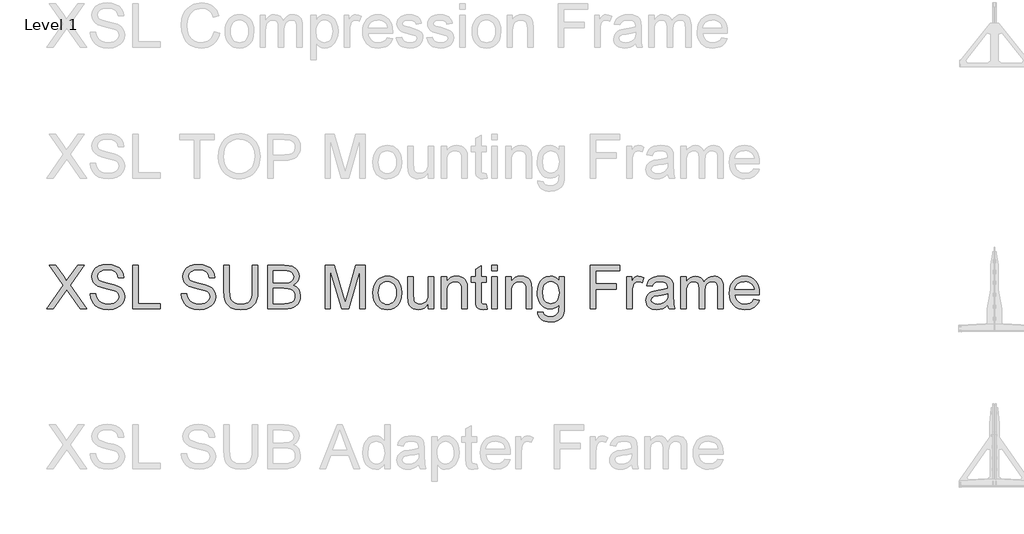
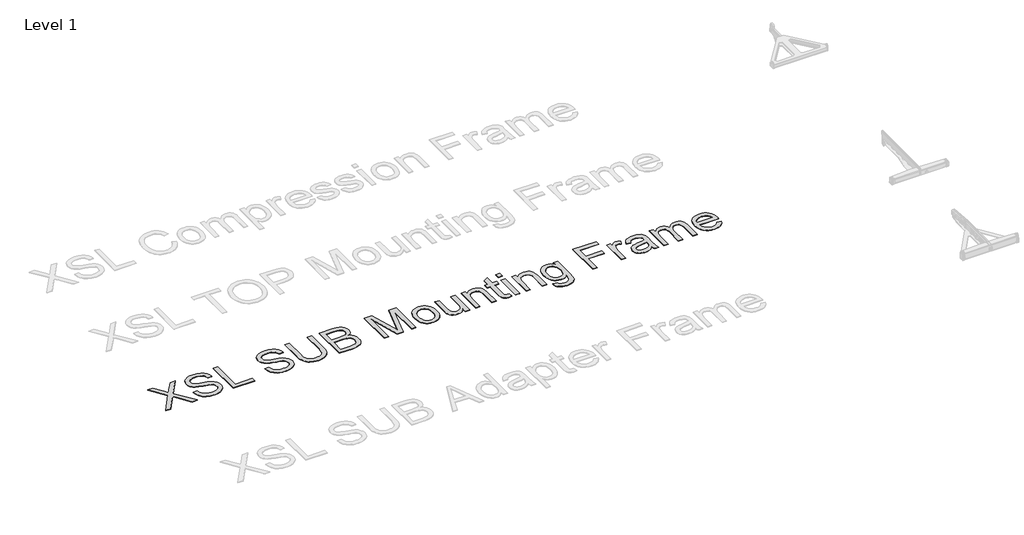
# One storey, part 7 of 52: 1 proxy.
"""IFC4 building model written with IfcOpenShell, lengths in millimetres."""

import ifcopenshell
import ifcopenshell.guid

model = None  # the IFC model being written
_history = None  # IfcOwnerHistory: only IFC2X3 demands one
_inside = {}  # id of a spatial element -> (the spatial element, [elements in it])
_under = {}  # id of a project, library or spatial element -> (it, [spatial elements below it])
_declared = {}  # id of a project -> (the project, [libraries it declares])
_typed = {}  # id of a type object -> (the type object, [elements of that type])
_made_of = {}  # id of a material, layer set ... -> (it, [elements and type objects made of it])


def new_model(schema):
    """Start an empty IFC model of exactly this schema.

    Asked for "IFC4X3", IfcOpenShell would pick the latest addendum, in which some entities
    have other attributes; the version numbers below select the first issue.
    IFC2X3 requires an IfcOwnerHistory on every rooted entity: one is made here for all.
    """
    global model, _history
    if schema == "IFC4X3":
        model = ifcopenshell.file(schema_version=(4, 3, 0, 0))
    else:
        model = ifcopenshell.file(schema=schema)
    _inside.clear()
    _under.clear()
    _declared.clear()
    _typed.clear()
    _made_of.clear()
    _history = None
    if model.schema == "IFC2X3":
        org = make("IfcOrganization", Name="unknown")
        user = make(
            "IfcPersonAndOrganization",
            ThePerson=make("IfcPerson", FamilyName="unknown"),
            TheOrganization=org,
        )
        app = make(
            "IfcApplication",
            ApplicationDeveloper=org,
            Version="unknown",
            ApplicationFullName="unknown",
            ApplicationIdentifier="unknown",
        )
        _history = make(
            "IfcOwnerHistory",
            OwningUser=user,
            OwningApplication=app,
            ChangeAction="ADDED",
            CreationDate=0,
        )
    return model


def make(cls, **values):
    """One entity of the class cls with the attributes given. An attribute that is None is left unset."""
    return model.create_entity(
        cls, **{name: value for name, value in values.items() if value is not None}
    )


def rooted(cls, **values):
    """An entity with a GlobalId (a new one), such as an element, a storey or a relation."""
    return make(cls, GlobalId=ifcopenshell.guid.new(), OwnerHistory=_history, **values)


def si_unit(unit_type, name, prefix=None):
    """IfcSIUnit, for example si_unit("LENGTHUNIT", "METRE", prefix="MILLI")."""
    return make("IfcSIUnit", UnitType=unit_type, Prefix=prefix, Name=name)


def assignment(units):
    """IfcUnitAssignment: the units of a project."""
    return None if units is None else make("IfcUnitAssignment", Units=units)


def point(xyz):
    """IfcCartesianPoint."""
    return None if xyz is None else make("IfcCartesianPoint", Coordinates=xyz)


def direction(xyz):
    """IfcDirection."""
    return None if xyz is None else make("IfcDirection", DirectionRatios=xyz)


def frame(location, z_axis=None, x_axis=None):
    """IfcAxis2Placement3D, a coordinate frame: its origin and axes. An axis left out is left unset."""
    return make(
        "IfcAxis2Placement3D",
        Location=point(location),
        Axis=direction(z_axis),
        RefDirection=direction(x_axis),
    )


def origin():
    """The frame at (0, 0, 0) with its axes left unset."""
    return frame((0.0, 0.0, 0.0))


def origin_with_axes():
    """The frame at (0, 0, 0) with the z axis (0, 0, 1) and the x axis (1, 0, 0) written out."""
    return frame((0.0, 0.0, 0.0), z_axis=(0.0, 0.0, 1.0), x_axis=(1.0, 0.0, 0.0))


def place(relative_to, where):
    """IfcLocalPlacement: puts the frame where relative to a parent placement (None: the world)."""
    return make(
        "IfcLocalPlacement", PlacementRelTo=relative_to, RelativePlacement=where
    )


def context(
    kind, dimensions, precision=None, world=None, true_north=None, identifier=None
):
    """IfcGeometricRepresentationContext, for example the 3D "Model" context."""
    return make(
        "IfcGeometricRepresentationContext",
        ContextIdentifier=identifier,
        ContextType=kind,
        CoordinateSpaceDimension=dimensions,
        Precision=precision,
        WorldCoordinateSystem=world,
        TrueNorth=true_north,
    )


def project(units=None, contexts=None):
    """IfcProject with its units and contexts."""
    return rooted(
        "IfcProject",
        Name="project",
        RepresentationContexts=contexts,
        UnitsInContext=assignment(units),
    )


def spatial(cls, under=None, at=None, **own):
    """A site, building, storey or space (cls), placed at a placement, below another one or the project."""
    s = rooted(cls, ObjectPlacement=at, **own)
    if under is not None:
        _under.setdefault(under.id(), (under, []))[1].append(s)
    return s


def polyline(points):
    """IfcPolyline through the points."""
    return make("IfcPolyline", Points=[point(p) for p in points])


def outline(outer, holes=None, kind="AREA"):
    """IfcArbitraryClosedProfileDef: a profile drawn as a closed curve; with holes, ...WithVoids."""
    if holes is None:
        return make("IfcArbitraryClosedProfileDef", ProfileType=kind, OuterCurve=outer)
    return make(
        "IfcArbitraryProfileDefWithVoids",
        ProfileType=kind,
        OuterCurve=outer,
        InnerCurves=holes,
    )


def extrude(swept, where, along, depth):
    """IfcExtrudedAreaSolid: the profile swept, set in the frame where, extruded along a direction by depth."""
    return make(
        "IfcExtrudedAreaSolid",
        SweptArea=swept,
        Position=where,
        ExtrudedDirection=direction(along),
        Depth=depth,
    )


def shape(context_of_items, identifier, shape_type, items):
    """IfcShapeRepresentation: the items that make up one representation, for example the "Body"."""
    return make(
        "IfcShapeRepresentation",
        ContextOfItems=context_of_items,
        RepresentationIdentifier=identifier,
        RepresentationType=shape_type,
        Items=items,
    )


def made_of(thing, what):
    """Note that an element or type object is made of a material, layer set ...; save() writes the relation."""
    if what is not None:
        _made_of.setdefault(what.id(), (what, []))[1].append(thing)
    return thing


def element(
    cls,
    number,
    at=None,
    inside=None,
    cuts=None,
    type_object=None,
    material=None,
    context=None,
    identifier="Body",
    shape_type=None,
    held_by="IfcProductDefinitionShape",
    body=None,
    shapes=None,
    **own,
):
    """One element of the class cls, such as IfcWall. Its Tag is "e" and its number.

    at: its placement. inside: the storey or other place that contains it. cuts: it is an
    opening in that element (IfcRelVoidsElement). A single representation is given by context,
    identifier, shape_type and body (its items); several are given by shapes. held_by: the class
    of the entity that holds the representations. save() writes the other relations.
    """
    e = rooted(cls, Tag="e%d" % number, ObjectPlacement=at, **own)
    if body is not None:
        shapes = [shape(context, identifier, shape_type, body)]
    if shapes is not None:
        e.Representation = make(held_by, Representations=shapes)
    if inside is not None:
        _inside.setdefault(inside.id(), (inside, []))[1].append(e)
    if cuts is not None:
        rooted(
            "IfcRelVoidsElement", RelatingBuildingElement=cuts, RelatedOpeningElement=e
        )
    if type_object is not None:
        _typed.setdefault(type_object.id(), (type_object, []))[1].append(e)
    return made_of(e, material)


def aggregate(whole, parts):
    """IfcRelAggregates: a whole, such as a stair, and the parts it consists of."""
    return rooted("IfcRelAggregates", RelatingObject=whole, RelatedObjects=parts)


def save(model, path):
    """Write the relations noted so far, then the file.

    IfcRelAggregates (storeys below a building ...), IfcRelContainedInSpatialStructure (elements
    in a storey), IfcRelDefinesByType, IfcRelAssociatesMaterial and IfcRelDeclares: one each for
    every whole, place, type object, material and project.
    """
    for whole, parts in _under.values():
        aggregate(whole, parts)
    for where, things in _inside.values():
        rooted(
            "IfcRelContainedInSpatialStructure",
            RelatedElements=things,
            RelatingStructure=where,
        )
    for kind, things in _typed.values():
        rooted("IfcRelDefinesByType", RelatedObjects=things, RelatingType=kind)
    for what, things in _made_of.values():
        rooted("IfcRelAssociatesMaterial", RelatedObjects=things, RelatingMaterial=what)
    for by, libraries in _declared.values():
        rooted("IfcRelDeclares", RelatingContext=by, RelatedDefinitions=libraries)
    model.write(path)


model = new_model("IFC4")

# Units and contexts
model_context = context("Model", 3, world=origin())
ifc_project = project(units=[si_unit("LENGTHUNIT", "METRE", prefix="MILLI")], contexts=[model_context])

# Site, building, storey
site = spatial("IfcSite", under=ifc_project)
building = spatial("IfcBuilding", under=site)
storey = spatial("IfcBuildingStorey", under=building, Name="Level 1", Elevation=0.0)

# Proxy
placement = place(None, origin())
element("IfcBuildingElementProxy", 1, Name="400mm Arial", ObjectType="400mm Arial", at=placement, inside=storey, context=model_context, shape_type="SweptSolid", body=[
    extrude(outline(polyline([(-18995.0211414, -66056.6859046), (-18840.2163979, -65837.722541), (-18969.9070639, -65654.860664), (-18909.7706204, -65654.860664), (-18836.6847307, -65757.8676226), (-18812.0611625, -65797.9912855), (-18783.2192141, -65756.9847058), (-18710.9181393, -65654.860664), (-18649.7025753, -65654.860664), (-18779.4913432, -65838.4092541), (-18624.5884978, -66056.6859046), (-18684.8230431, -66056.6859046), (-18788.1243074, -65911.2008382), (-18809.6086159, -65881.0835655), (-18833.0549617, -65914.1438942), (-18933.8055774, -66056.6859046), (-18995.0211414, -66056.6859046)])), origin_with_axes(), (0.0, 0.0, 1.0), 5.0),
    extrude(outline(polyline([(-18593.1959008, -65918.5584781), (-18542.9677458, -65918.5584781), (-18537.2042612, -65946.4316706), (-18526.780938, -65968.8356841), (-18510.5205538, -65986.6166472), (-18487.2458862, -66000.6206885), (-18458.7963453, -66009.7073738), (-18427.0113409, -66012.7362689), (-18399.0277838, -66010.4431378), (-18374.5268429, -66003.5637445), (-18354.6734779, -65992.6744374), (-18340.6326484, -65978.3515651), (-18332.2817271, -65961.9072399), (-18329.4980867, -65944.6535743), (-18331.5827513, -65927.8413671), (-18337.8367453, -65913.3100283), (-18350.5409368, -65900.9124051), (-18371.9761944, -65890.5013446), (-18445.1111351, -65871.3224299), (-18493.1197354, -65858.6305011), (-18523.837882, -65846.5517089), (-18548.841595, -65829.6536626), (-18566.5612444, -65809.1748982), (-18577.1194577, -65785.5568741), (-18580.6388621, -65759.2410487), (-18576.2855918, -65729.8227518), (-18563.225781, -65702.3910177), (-18541.8027861, -65679.1408756), (-18512.3599638, -65662.2673548), (-18477.0187668, -65652.0034471), (-18437.9006479, -65648.5821446), (-18395.5206421, -65652.1628627), (-18358.438137, -65662.9050169), (-18327.9775078, -65680.5878782), (-18305.4631297, -65704.9907172), (-18291.2138337, -65734.592955), (-18285.548451, -65767.8740129), (-18335.7766061, -65767.8740129), (-18344.9981814, -65737.903893), (-18353.3613655, -65726.04583), (-18364.226147, -65716.2724317), (-18394.2698433, -65703.1758327), (-18435.9386106, -65698.8102996), (-18478.5883966, -65703.1267817), (-18494.8917004, -65708.5223843), (-18507.847278, -65716.076228), (-18524.7698497, -65735.1325153), (-18530.410707, -65757.7695207), (-18526.413056, -65777.0710628), (-18514.4201029, -65792.595683), (-18486.0686638, -65806.4770969), (-18432.4069435, -65820.6528165), (-18377.0284405, -65834.1172975), (-18343.5266535, -65845.8649959), (-18314.8931715, -65864.0874173), (-18294.9171792, -65886.57727), (-18283.1817435, -65913.0892991), (-18279.2699316, -65943.37825), (-18283.7703547, -65974.3416513), (-18297.2716239, -66003.4656426), (-18319.2219163, -66028.5306692), (-18349.0694088, -66047.3171764), (-18384.9624288, -66059.0526121), (-18425.0493036, -66062.9644239), (-18474.2596518, -66058.7460437), (-18514.7634595, -66046.0909031), (-18547.0267105, -66024.9499511), (-18571.5153886, -65995.2741368), (-18587.2362125, -65959.1235994), (-18593.1959008, -65918.5584781)])), origin_with_axes(), (0.0, 0.0, 1.0), 5.0),
    extrude(outline(polyline([(-18203.927699, -66056.6859046), (-18203.927699, -65654.860664), (-18153.6995439, -65654.860664), (-18153.6995439, -66006.4577495), (-17952.7869236, -66006.4577495), (-17952.7869236, -66056.6859046), (-18203.927699, -66056.6859046)])), origin_with_axes(), (0.0, 0.0, 1.0), 5.0),
    extrude(outline(polyline([(-17758.1528227, -65918.5584781), (-17707.9246677, -65918.5584781), (-17702.1611831, -65946.4316706), (-17691.7378599, -65968.8356841), (-17675.4774757, -65986.6166472), (-17652.2028081, -66000.6206885), (-17623.7532672, -66009.7073738), (-17591.9682628, -66012.7362689), (-17563.9847057, -66010.4431378), (-17539.4837648, -66003.5637445), (-17519.6303998, -65992.6744374), (-17505.5895703, -65978.3515651), (-17497.238649, -65961.9072399), (-17494.4550086, -65944.6535743), (-17496.5396732, -65927.8413671), (-17502.7936671, -65913.3100283), (-17515.4978587, -65900.9124051), (-17536.9331163, -65890.5013446), (-17610.0680569, -65871.3224299), (-17658.0766573, -65858.6305011), (-17688.7948039, -65846.5517089), (-17713.7985168, -65829.6536626), (-17731.5181663, -65809.1748982), (-17742.0763795, -65785.5568741), (-17745.595784, -65759.2410487), (-17741.2425137, -65729.8227518), (-17728.1827029, -65702.3910177), (-17706.759708, -65679.1408756), (-17677.3168857, -65662.2673548), (-17641.9756886, -65652.0034471), (-17602.8575698, -65648.5821446), (-17560.477564, -65652.1628627), (-17523.3950589, -65662.9050169), (-17492.9344297, -65680.5878782), (-17470.4200516, -65704.9907172), (-17456.1707556, -65734.592955), (-17450.5053729, -65767.8740129), (-17500.733528, -65767.8740129), (-17509.9551033, -65737.903893), (-17518.3182873, -65726.04583), (-17529.1830689, -65716.2724317), (-17559.2267652, -65703.1758327), (-17600.8955325, -65698.8102996), (-17643.5453185, -65703.1267817), (-17659.8486222, -65708.5223843), (-17672.8041998, -65716.076228), (-17689.7267716, -65735.1325153), (-17695.3676289, -65757.7695207), (-17691.3699779, -65777.0710628), (-17679.3770248, -65792.595683), (-17651.0255857, -65806.4770969), (-17597.3638654, -65820.6528165), (-17541.9853624, -65834.1172975), (-17508.4835753, -65845.8649959), (-17479.8500934, -65864.0874173), (-17459.874101, -65886.57727), (-17448.1386654, -65913.0892991), (-17444.2268535, -65943.37825), (-17448.7272766, -65974.3416513), (-17462.2285458, -66003.4656426), (-17484.1788382, -66028.5306692), (-17514.0263307, -66047.3171764), (-17549.9193507, -66059.0526121), (-17590.0062255, -66062.9644239), (-17639.2165737, -66058.7460437), (-17679.7203814, -66046.0909031), (-17711.9836323, -66024.9499511), (-17736.4723105, -65995.2741368), (-17752.1931344, -65959.1235994), (-17758.1528227, -65918.5584781)])), origin_with_axes(), (0.0, 0.0, 1.0), 5.0),
    extrude(outline(polyline([(-17105.1868068, -65654.860664), (-17054.9586517, -65654.860664), (-17054.9586517, -65886.6753719), (-17058.3676915, -65940.9624916), (-17068.594811, -65982.766149), (-17076.7801854, -65999.7193776), (-17087.7001492, -66015.0171372), (-17117.7438455, -66040.6462496), (-17136.885972, -66050.4104509), (-17158.7994762, -66057.3848803), (-17210.9406176, -66062.9644239), (-17261.9413249, -66058.1083816), (-17302.7149127, -66043.5402546), (-17319.2696025, -66032.7398524), (-17333.2736438, -66019.762815), (-17344.7270365, -66004.6091425), (-17353.6297808, -65987.2788348), (-17365.0709109, -65943.7093438), (-17368.8846209, -65886.6753719), (-17368.8846209, -65654.860664), (-17318.6564658, -65654.860664), (-17318.6564658, -65884.9095383), (-17316.1793937, -65930.0486591), (-17308.7481774, -65961.4780442), (-17295.2836964, -65983.2443956), (-17274.7068301, -65999.3944152), (-17247.8759699, -66009.4008054), (-17215.6495072, -66012.7362689), (-17187.966387, -66011.0869313), (-17164.5629608, -66006.1389184), (-17145.4392284, -65997.8922304), (-17130.5951899, -65986.3468671), (-17119.4790223, -65970.1110084), (-17111.5389025, -65947.792834), (-17106.7748307, -65919.392344), (-17105.1868068, -65884.9095383), (-17105.1868068, -65654.860664)])), origin_with_axes(), (0.0, 0.0, 1.0), 5.0),
    extrude(outline(polyline([(-16967.0593803, -66056.6859046), (-16967.0593803, -65654.860664), (-16813.7261647, -65654.860664), (-16771.5546253, -65657.8159827), (-16738.6291868, -65666.6819387), (-16713.3924819, -65681.6792614), (-16694.2871436, -65703.0286799), (-16682.2574024, -65728.1427574), (-16678.2474886, -65754.4340573), (-16681.6197402, -65778.6284299), (-16691.7364951, -65801.3757999), (-16708.6713296, -65821.2782158), (-16732.4978202, -65836.9377261), (-16704.0360165, -65851.8001587), (-16683.0054291, -65874.4126387), (-16670.0191947, -65903.2791126), (-16665.6904498, -65936.9035269), (-16668.6457685, -65964.9238722), (-16677.5117246, -65990.9086038), (-16690.7432137, -66013.006049), (-16706.7951314, -66029.364535), (-16726.4522927, -66041.2103353), (-16750.4995125, -66049.769723), (-16779.7216056, -66054.9568592), (-16814.9033871, -66056.6859046), (-16967.0593803, -66056.6859046)]), holes=[polyline([(-16916.8312252, -66006.4577495), (-16813.8242666, -66006.4577495), (-16776.5455577, -66004.4957122), (-16745.005808, -65993.5573542), (-16733.4297879, -65984.1273124), (-16724.1101107, -65971.2391798), (-16717.9664814, -65955.469305), (-16715.9186049, -65937.3940363), (-16718.3221006, -65916.4002371), (-16725.5325877, -65898.3494938), (-16738.1264147, -65884.235088), (-16756.67993, -65875.0503008), (-16782.9589672, -65870.0103175), (-16818.7293598, -65868.330323), (-16916.8312252, -65868.330323), (-16916.8312252, -66006.4577495)]), polyline([(-16916.8312252, -65818.102168), (-16825.1059811, -65818.102168), (-16771.5423626, -65813.7856859), (-16752.7926436, -65806.3422068), (-16739.3158998, -65795.1953824), (-16731.1857077, -65780.5168908), (-16728.4756437, -65762.4784103), (-16731.0017667, -65744.9672273), (-16738.5801358, -65729.7123872), (-16750.8673945, -65717.8052733), (-16767.5201861, -65710.3372688), (-16793.075722, -65706.4009315), (-16832.0712135, -65705.088819), (-16916.8312252, -65705.088819), (-16916.8312252, -65818.102168)])]), origin_with_axes(), (0.0, 0.0, 1.0), 5.0),
    extrude(outline(polyline([(-16439.663752, -66056.6859046), (-16439.663752, -65654.860664), (-16353.5303142, -65654.860664), (-16271.1247473, -65938.0807493), (-16254.4474302, -65997.2361741), (-16236.4947888, -65933.175656), (-16155.6588517, -65654.860664), (-16069.2311083, -65654.860664), (-16069.2311083, -66056.6859046), (-16119.4592634, -66056.6859046), (-16119.4592634, -65705.088819), (-16220.4060829, -66056.6859046), (-16288.3906756, -66056.6859046), (-16389.4355969, -65705.088819), (-16389.4355969, -66056.6859046), (-16439.663752, -66056.6859046)])), origin_with_axes(), (0.0, 0.0, 1.0), 5.0),
    extrude(outline(polyline([(-16000.1673951, -65909.140699), (-15997.4511997, -65870.9238911), (-15989.3026135, -65837.9923212), (-15975.7216365, -65810.3459892), (-15956.7082687, -65787.9848953), (-15937.5661423, -65773.6926798), (-15916.437453, -65763.4839544), (-15893.322201, -65757.3587192), (-15868.2203862, -65755.3169741), (-15840.5096749, -65757.8032433), (-15815.4538453, -65765.2620507), (-15793.0528975, -65777.6933965), (-15773.3068314, -65795.0972805), (-15757.1905343, -65816.8850917), (-15745.6788936, -65842.4682188), (-15738.7719091, -65871.8466618), (-15736.469581, -65905.0204207), (-15740.5408084, -65955.7636105), (-15752.7544906, -65994.39122), (-15772.7550084, -66023.3190076), (-15800.1867425, -66044.9627316), (-15832.7688246, -66058.4640009), (-15868.2203862, -66062.9644239), (-15896.3357677, -66060.4873518), (-15921.6245891, -66053.0561355), (-15944.0868506, -66040.670775), (-15963.7225521, -66023.3312703), (-15979.6671709, -66001.331927), (-15991.0561844, -65974.9670507), (-15997.8895924, -65944.2366414), (-16000.1673951, -65909.140699)]), holes=[polyline([(-15949.93924, -65909.0425972), (-15948.4861062, -65933.4055823), (-15944.1267045, -65954.500549), (-15936.8610351, -65972.3274974), (-15926.6890979, -65986.8864273), (-15914.3160002, -65998.195733), (-15900.4468489, -66006.2738085), (-15885.0816443, -66011.1206538), (-15868.2203862, -66012.7362689), (-15851.4449672, -66011.1114567), (-15836.1410762, -66006.2370203), (-15822.3087132, -65998.1129596), (-15809.9478781, -65986.7392745), (-15799.775941, -65972.0362575), (-15792.5102716, -65953.9242006), (-15788.1508699, -65932.4031039), (-15786.697736, -65907.4729673), (-15788.160067, -65883.8825344), (-15792.5470598, -65863.3393906), (-15799.8587144, -65845.8435361), (-15810.0950309, -65831.3949707), (-15822.5018512, -65820.085665), (-15836.3250172, -65812.0075896), (-15851.5645288, -65807.1607443), (-15868.2203862, -65805.5451292), (-15885.0816443, -65807.1546129), (-15900.4468489, -65811.9830641), (-15914.3160002, -65820.0304827), (-15926.6890979, -65831.2968688), (-15936.8610351, -65845.8128792), (-15944.1267045, -65863.6091708), (-15948.4861062, -65884.6857434), (-15949.93924, -65909.0425972)])]), origin_with_axes(), (0.0, 0.0, 1.0), 5.0),
    extrude(outline(polyline([(-15491.607325, -66056.6859046), (-15491.607325, -66005.9672402), (-15509.7806955, -66030.9035081), (-15530.946173, -66048.715128), (-15555.1037573, -66059.4021), (-15582.2534486, -66062.9644239), (-15606.7176013, -66060.4628264), (-15629.4894968, -66052.9580337), (-15648.5948351, -66041.6763192), (-15662.0593161, -66027.8439561), (-15671.1214759, -66011.0440117), (-15677.0198505, -65990.8595529), (-15679.9629065, -65944.163065), (-15679.9629065, -65761.5954935), (-15629.7347514, -65761.5954935), (-15629.7347514, -65920.5205154), (-15626.6935936, -65971.7296891), (-15619.3727419, -65988.8116764), (-15606.8279659, -66001.7979109), (-15589.8931314, -66010.0016794), (-15569.4021042, -66012.7362689), (-15547.7338547, -66009.9403657), (-15527.4635568, -66001.5526562), (-15510.7494515, -65988.3456926), (-15499.7497798, -65971.092027), (-15493.6429387, -65947.4617402), (-15491.607325, -65915.1249128), (-15491.607325, -65761.5954935), (-15441.3791699, -65761.5954935), (-15441.3791699, -66056.6859046), (-15491.607325, -66056.6859046)])), origin_with_axes(), (0.0, 0.0, 1.0), 5.0),
    extrude(outline(polyline([(-15372.3154567, -66056.6859046), (-15372.3154567, -65761.5954935), (-15322.0873016, -65761.5954935), (-15322.0873016, -65802.798277), (-15304.6374323, -65782.025207), (-15283.6804213, -65767.1872998), (-15259.2162686, -65758.2845555), (-15231.2449743, -65755.3169741), (-15206.486516, -65757.7082071), (-15183.8127223, -65764.881906), (-15164.9035878, -65775.9428913), (-15151.4391068, -65789.9959835), (-15142.3033706, -65807.0043944), (-15136.3804704, -65826.9313358), (-15133.7317201, -65875.4917592), (-15133.7317201, -66056.6859046), (-15183.9598751, -66056.6859046), (-15183.9598751, -65882.2607879), (-15185.4068777, -65856.2883191), (-15189.7478852, -65837.8206429), (-15197.75545, -65824.5891538), (-15210.2021241, -65814.3252461), (-15226.15594, -65807.7401584), (-15244.6849298, -65805.5451292), (-15274.1032267, -65810.4747479), (-15299.180516, -65825.2636041), (-15309.2022347, -65837.3362649), (-15316.3606052, -65853.8357724), (-15320.6556275, -65874.7621266), (-15322.0873016, -65900.1153274), (-15322.0873016, -66056.6859046), (-15372.3154567, -66056.6859046)])), origin_with_axes(), (0.0, 0.0, 1.0), 5.0),
    extrude(outline(polyline([(-14957.9331773, -66014.796408), (-14951.6546579, -66058.1574325), (-14989.2276724, -66062.9644239), (-15013.3362058, -66060.8797593), (-15031.3133726, -66054.6257654), (-15044.0175642, -66044.9872571), (-15052.3071718, -66032.7490494), (-15056.8689085, -66011.7307247), (-15058.3894875, -65975.7518656), (-15058.3894875, -65811.8236486), (-15096.0606038, -65811.8236486), (-15096.0606038, -65761.5954935), (-15058.3894875, -65761.5954935), (-15058.3894875, -65689.8830299), (-15008.1613324, -65660.3543684), (-15008.1613324, -65761.5954935), (-14957.9331773, -65761.5954935), (-14957.9331773, -65811.8236486), (-15008.1613324, -65811.8236486), (-15008.1613324, -65974.2803376), (-15005.512582, -66000.1792301), (-14996.9286688, -66009.3517545), (-14979.8098933, -66012.7362689), (-14957.9331773, -66014.796408)])), origin_with_axes(), (0.0, 0.0, 1.0), 5.0),
    extrude(outline(polyline([(-14907.7050222, -66056.6859046), (-14907.7050222, -65761.5954935), (-14857.4768672, -65761.5954935), (-14857.4768672, -66056.6859046), (-14907.7050222, -66056.6859046)])), origin_with_axes(), (0.0, 0.0, 1.0), 5.0),
    extrude(outline(polyline([(-14907.7050222, -65705.088819), (-14907.7050222, -65654.860664), (-14857.4768672, -65654.860664), (-14857.4768672, -65705.088819), (-14907.7050222, -65705.088819)])), origin_with_axes(), (0.0, 0.0, 1.0), 5.0),
    extrude(outline(polyline([(-14782.1346345, -66056.6859046), (-14782.1346345, -65761.5954935), (-14731.9064795, -65761.5954935), (-14731.9064795, -65802.798277), (-14714.4566102, -65782.025207), (-14693.4995992, -65767.1872998), (-14669.0354465, -65758.2845555), (-14641.0641521, -65755.3169741), (-14616.3056939, -65757.7082071), (-14593.6319002, -65764.881906), (-14574.7227657, -65775.9428913), (-14561.2582846, -65789.9959835), (-14552.1225484, -65807.0043944), (-14546.1996483, -65826.9313358), (-14543.5508979, -65875.4917592), (-14543.5508979, -66056.6859046), (-14593.779053, -66056.6859046), (-14593.779053, -65882.2607879), (-14595.2260555, -65856.2883191), (-14599.5670631, -65837.8206429), (-14607.5746278, -65824.5891538), (-14620.021302, -65814.3252461), (-14635.9751179, -65807.7401584), (-14654.5041077, -65805.5451292), (-14683.9224046, -65810.4747479), (-14708.9996939, -65825.2636041), (-14719.0214126, -65837.3362649), (-14726.1797831, -65853.8357724), (-14730.4748054, -65874.7621266), (-14731.9064795, -65900.1153274), (-14731.9064795, -66056.6859046), (-14782.1346345, -66056.6859046)])), origin_with_axes(), (0.0, 0.0, 1.0), 5.0),
    extrude(outline(polyline([(-14487.0442235, -66081.7999821), (-14436.8160684, -66088.0785015), (-14431.273313, -66103.7747999), (-14420.5311588, -66114.5660051), (-14399.4147322, -66122.9537146), (-14371.7745317, -66125.7496178), (-14342.2949211, -66122.5858326), (-14320.3691542, -66113.0944772), (-14305.1633651, -66097.888688), (-14295.8436879, -66077.5816019), (-14292.4101226, -66019.0147883), (-14309.1242279, -66035.4959016), (-14327.775845, -66047.2681255), (-14348.364974, -66054.3314598), (-14370.8916149, -66056.6859046), (-14398.4306479, -66053.9451837), (-14422.6771371, -66045.7230211), (-14443.6310824, -66032.0194168), (-14461.2924838, -66012.8343707), (-14475.3057222, -65989.8172206), (-14485.3151781, -65964.6173039), (-14491.3208517, -65937.2346207), (-14493.3227429, -65907.669171), (-14489.729762, -65867.1163124), (-14478.9508196, -65829.8253409), (-14461.3660602, -65798.2242775), (-14437.3556287, -65774.7411435), (-14407.7411281, -65760.1730164), (-14373.3441615, -65755.3169741), (-14349.8548961, -65758.0638263), (-14328.5361345, -65766.304383), (-14309.3878766, -65780.0386442), (-14292.4101226, -65799.2666098), (-14292.4101226, -65761.5954935), (-14242.1819675, -65761.5954935), (-14242.1819675, -66016.3660379), (-14245.6155328, -66075.1903689), (-14255.9162286, -66113.928343), (-14273.6604035, -66139.618769), (-14299.4244059, -66159.3004557), (-14332.6441501, -66171.8084436), (-14372.7555503, -66175.9777729), (-14397.3637901, -66174.5093106), (-14419.4888264, -66170.1039237), (-14439.1306593, -66162.7616122), (-14456.2892887, -66152.4823761), (-14470.1492429, -66139.2539527), (-14479.89505, -66123.0640792), (-14485.5267102, -66103.9127557), (-14487.0442235, -66081.7999821)]), holes=[polyline([(-14443.0945878, -65904.2356058), (-14437.7357734, -65950.3066943), (-14431.0372554, -65967.9435703), (-14421.6593302, -65981.9813341), (-14410.258054, -65992.6897658), (-14397.4894831, -66000.3386456), (-14383.3536175, -66004.9279735), (-14367.850457, -66006.4577495), (-14352.5005808, -66004.9371706), (-14338.4321602, -66000.3754338), (-14325.6451951, -65992.7725393), (-14314.1396857, -65982.1284869), (-14304.6330019, -65968.2286788), (-14297.8425134, -65950.8585173), (-14292.4101226, -65905.7071337), (-14298.0019289, -65862.1621682), (-14304.9916868, -65844.9606193), (-14314.7773479, -65830.8063595), (-14326.5311776, -65819.7545712), (-14339.4254415, -65811.8604368), (-14353.4601397, -65807.1239561), (-14368.635272, -65805.5451292), (-14383.5559526, -65807.0994306), (-14397.3178049, -65811.7623349), (-14421.3650246, -65830.4139521), (-14430.8717085, -65844.353614), (-14437.662197, -65861.3037769), (-14443.0945878, -65904.2356058)])]), origin_with_axes(), (0.0, 0.0, 1.0), 5.0),
    extrude(outline(polyline([(-14003.5982309, -66056.6859046), (-14003.5982309, -65654.860664), (-13733.6218974, -65654.860664), (-13733.6218974, -65705.088819), (-13953.3700758, -65705.088819), (-13953.3700758, -65824.3806873), (-13765.0144943, -65824.3806873), (-13765.0144943, -65874.6088424), (-13953.3700758, -65874.6088424), (-13953.3700758, -66056.6859046), (-14003.5982309, -66056.6859046)])), origin_with_axes(), (0.0, 0.0, 1.0), 5.0),
    extrude(outline(polyline([(-13670.8367035, -66056.6859046), (-13670.8367035, -65761.5954935), (-13626.8870678, -65761.5954935), (-13626.8870678, -65805.2508236), (-13610.6512091, -65779.9405423), (-13595.6906746, -65765.0290588), (-13580.6810892, -65757.7449953), (-13564.2980777, -65755.3169741), (-13539.282102, -65759.1919978), (-13513.8737189, -65770.8170688), (-13530.6491379, -65815.845825), (-13548.3074737, -65808.1203031), (-13565.9658094, -65805.5451292), (-13580.9631321, -65808.0222013), (-13594.3662995, -65815.4534176), (-13605.1942928, -65827.2746924), (-13612.4660936, -65842.9219399), (-13618.5729347, -65870.9790734), (-13620.6085484, -65901.5868554), (-13620.6085484, -66056.6859046), (-13670.8367035, -66056.6859046)])), origin_with_axes(), (0.0, 0.0, 1.0), 5.0),
    extrude(outline(polyline([(-13294.1255405, -66019.0147883), (-13318.1237093, -66039.5916545), (-13342.8331166, -66053.0561355), (-13368.8178482, -66060.4873518), (-13396.6419898, -66062.9644239), (-13419.0061494, -66061.4745019), (-13438.6173254, -66057.0047356), (-13455.4755179, -66049.5551252), (-13469.5807267, -66039.1256707), (-13480.7183541, -66026.3785595), (-13488.6738022, -66011.9759794), (-13493.4470711, -65995.9179303), (-13495.0381608, -65978.2044123), (-13492.6346651, -65957.3822913), (-13485.4241779, -65938.4731568), (-13474.301879, -65922.286349), (-13460.1629476, -65909.6312084), (-13443.5469442, -65900.0662765), (-13424.9934289, -65893.150095), (-13381.5343025, -65885.5962513), (-13330.177976, -65877.6500002), (-13294.419846, -65868.330323), (-13294.1255405, -65857.1467104), (-13297.5836312, -65834.7304341), (-13307.9579035, -65820.0642053), (-13331.1589946, -65809.1748982), (-13363.4835593, -65805.5451292), (-13393.4046282, -65807.9608876), (-13414.3003255, -65815.2081629), (-13428.5496215, -65828.6113303), (-13438.5314863, -65849.4947649), (-13488.7596414, -65843.2162455), (-13480.0408381, -65815.7477232), (-13467.0300782, -65794.1653128), (-13448.5133511, -65777.6596739), (-13423.2766462, -65765.4214662), (-13392.4113468, -65757.8430971), (-13357.0088362, -65755.3169741), (-13323.053328, -65757.5487915), (-13296.1366287, -65764.2442439), (-13275.8418053, -65774.3119478), (-13261.7519249, -65786.6605201), (-13252.4077222, -65801.9276229), (-13246.349932, -65820.7509183), (-13243.8973854, -65864.700554), (-13243.8973854, -65927.1914423), (-13241.3467369, -66014.4530515), (-13231.3403466, -66056.6859046), (-13281.5685017, -66056.6859046), (-13289.6128546, -66039.2237725), (-13294.1255405, -66019.0147883)]), holes=[polyline([(-13294.1255405, -65918.5584781), (-13327.8725821, -65926.9216621), (-13375.1576813, -65933.960471), (-13418.371553, -65942.1029258), (-13429.6164793, -65947.6702067), (-13437.9428751, -65955.3466776), (-13443.093223, -65964.5437275), (-13444.8100057, -65974.6727451), (-13441.0698721, -65989.6087541), (-13429.8494712, -66001.8469618), (-13411.3940578, -66010.0139421), (-13385.9488864, -66012.7362689), (-13358.9708735, -66009.7318992), (-13335.1321202, -66000.7187904), (-13315.8060527, -65987.4382503), (-13302.3660971, -65971.6315873), (-13296.4064088, -65955.3466776), (-13294.419846, -65932.7832486), (-13294.1255405, -65918.5584781)])]), origin_with_axes(), (0.0, 0.0, 1.0), 5.0),
    extrude(outline(polyline([(-13174.8336722, -66056.6859046), (-13174.8336722, -65761.5954935), (-13124.6055171, -65761.5954935), (-13124.6055171, -65810.1559169), (-13109.4978298, -65787.8500052), (-13090.0736605, -65770.3756104), (-13066.9951966, -65759.0816332), (-13040.9246259, -65755.3169741), (-13012.9901197, -65759.1552096), (-12990.598369, -65770.669916), (-12973.8720009, -65789.100804), (-12962.9336429, -65813.687584), (-12944.6253823, -65788.1504422), (-12923.7419477, -65769.9096266), (-12900.2833392, -65758.9651372), (-12874.2495566, -65755.3169741), (-12854.1417399, -65756.8344873), (-12836.4926012, -65761.387027), (-12821.3021405, -65768.9745932), (-12808.5703578, -65779.5971858), (-12798.5057195, -65793.3774322), (-12791.3166922, -65810.4379597), (-12787.0032758, -65830.7787684), (-12785.5654703, -65854.3998581), (-12785.5654703, -66056.6859046), (-12835.7936254, -66056.6859046), (-12835.7936254, -65875.9822685), (-12836.958585, -65850.9295047), (-12840.453464, -65834.0437211), (-12847.0017635, -65822.4799637), (-12857.3269848, -65813.3932784), (-12870.6075249, -65807.5071665), (-12886.0217805, -65805.5451292), (-12913.2327854, -65810.5728498), (-12935.4160697, -65825.6560116), (-12944.0214427, -65837.2259003), (-12950.1681377, -65851.8246842), (-12955.0854937, -65890.1089371), (-12955.0854937, -66056.6859046), (-13005.3136488, -66056.6859046), (-13005.3136488, -65870.3904622), (-13008.2199165, -65841.9899722), (-13016.9387198, -65821.731937), (-13032.279399, -65809.5918311), (-13055.0512945, -65805.5451292), (-13074.4018875, -65808.2429305), (-13092.2319015, -65816.3363344), (-13106.9471813, -65829.6291371), (-13116.9535716, -65847.925135), (-13122.6925307, -65873.3089927), (-13124.6055171, -65907.8653748), (-13124.6055171, -66056.6859046), (-13174.8336722, -66056.6859046)])), origin_with_axes(), (0.0, 0.0, 1.0), 5.0),
    extrude(outline(polyline([(-12503.6207092, -65968.7866332), (-12454.3735728, -65975.0651526), (-12461.9243507, -65994.7897589), (-12472.1177477, -66012.1721831), (-12484.9537636, -66027.2124254), (-12500.4323986, -66039.9104856), (-12518.394237, -66049.9965836), (-12538.6798634, -66057.2009394), (-12586.2224799, -66062.9644239), (-12617.3882162, -66060.4781548), (-12645.1571755, -66053.0193473), (-12669.5293577, -66040.5880016), (-12690.5047628, -66023.1841175), (-12707.3721522, -66001.2920731), (-12719.4202876, -65975.3962464), (-12726.6491688, -65945.4966372), (-12729.0587959, -65911.5932457), (-12726.6246433, -65876.5402229), (-12719.3221857, -65845.6442667), (-12707.151423, -65818.905377), (-12690.1123553, -65796.3235538), (-12669.1921325, -65778.3831752), (-12645.3779047, -65765.568619), (-12618.6696718, -65757.8798853), (-12589.067434, -65755.3169741), (-12560.4186236, -65757.873754), (-12534.5105341, -65765.5440936), (-12511.3431654, -65778.3279929), (-12490.9165177, -65796.225452), (-12474.2422662, -65818.7582242), (-12462.3320866, -65845.4480629), (-12455.1859789, -65876.2949682), (-12452.803943, -65911.2989401), (-12453.0982485, -65924.8369975), (-12678.8306408, -65924.8369975), (-12675.9213073, -65944.8804349), (-12670.136363, -65962.4345374), (-12661.4758077, -65977.4993051), (-12649.9396414, -65990.074738), (-12636.1655264, -65999.9891577), (-12620.7911247, -66007.0708861), (-12585.2414612, -66012.7362689), (-12558.5087029, -66010.112044), (-12535.9943248, -66002.2393693), (-12517.6983269, -65988.6277354), (-12503.6207092, -65968.7866332)]), holes=[polyline([(-12678.8306408, -65874.6088424), (-12503.032098, -65874.6088424), (-12509.8256522, -65848.0722878), (-12523.1429804, -65829.0895769), (-12536.8404534, -65818.788881), (-12552.4263872, -65811.4312411), (-12569.900782, -65807.0166572), (-12589.2636377, -65805.5451292), (-12623.121044, -65810.241756), (-12651.1168638, -65824.3316364), (-12670.5778214, -65846.2941915), (-12678.8306408, -65874.6088424)])]), origin_with_axes(), (0.0, 0.0, 1.0), 5.0),
])

save(model, "model.ifc")
